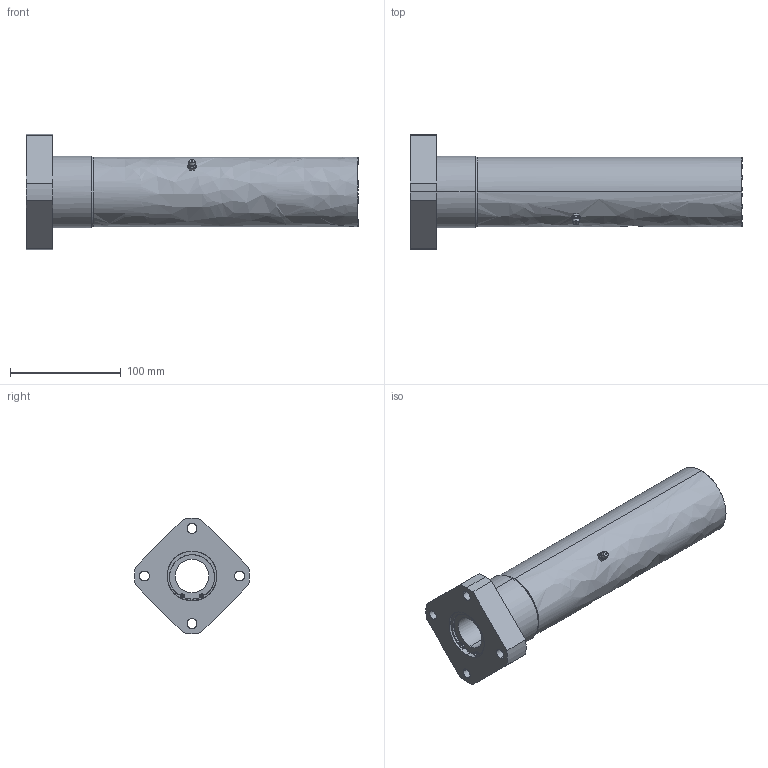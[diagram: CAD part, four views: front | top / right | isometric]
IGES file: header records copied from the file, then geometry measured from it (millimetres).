
Global section: file name: No Iges File Name specified; native system: AutoDesk Inventor R10; preprocessor: AutoDesk Inventor Iges Exporter R10; author: No Author specified; organization: No Organization specified; date: 20101214.140816; units: millimetre
Bounding box: 300 x 103.86 x 104 mm (x, y, z)
Surface area: 113623.3 mm2 (no closed solid volume)
Topology: 0 solids, 0 shells, 159 faces, 1125 edges, 1123 vertices
Faces by surface type: bspline 159
